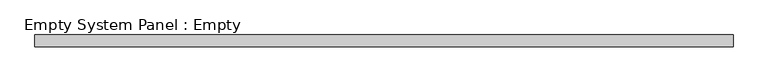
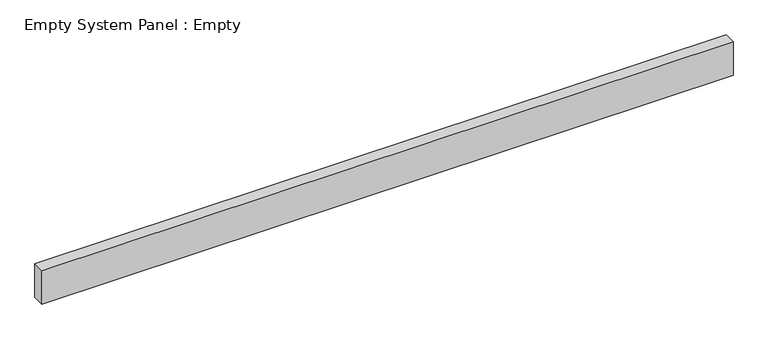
"""IFC4 building model written with IfcOpenShell, lengths in millimetres: plate geometry, Empty System Panel : Empty."""

from ifc_helpers import new_model, si_unit, origin, origin_with_axes, place, context, project, spatial, polyline, outline, extrude, source, transform, mapped, element, save


def empty_system_panel_empty_1b0869d0(model_context):
    return source(origin(), model_context, "Body", "SweptSolid", [
        extrude(outline(polyline([(745.2531094, 19.05), (-745.2531094, 19.05), (-745.2531094, 44.45), (745.2531094, 44.45), (745.2531094, 19.05)])), origin_with_axes(), (0.0, 0.0, 1.0), 76.2),
    ])


if __name__ == "__main__":
    model = new_model("IFC4")
    model_context = context("Model", 3, world=origin())
    ifc_project = project(units=[si_unit("LENGTHUNIT", "METRE", prefix="MILLI")], contexts=[model_context])
    site = spatial("IfcSite", under=ifc_project)
    building = spatial("IfcBuilding", under=site)
    placement = place(None, origin())
    empty_system_panel_empty_shape = empty_system_panel_empty_1b0869d0(model_context)
    element("IfcPlate", 1, ObjectType="Empty System Panel : Empty", at=placement, inside=building, context=model_context, shape_type="MappedRepresentation", body=[
        mapped(empty_system_panel_empty_shape, transform((0.0, 0.0, 0.0), x_axis=(1.0, 0.0, 0.0), y_axis=(0.0, 1.0, 0.0), z_axis=(0.0, 0.0, 1.0))),
    ])
    save(model, "model.ifc")
